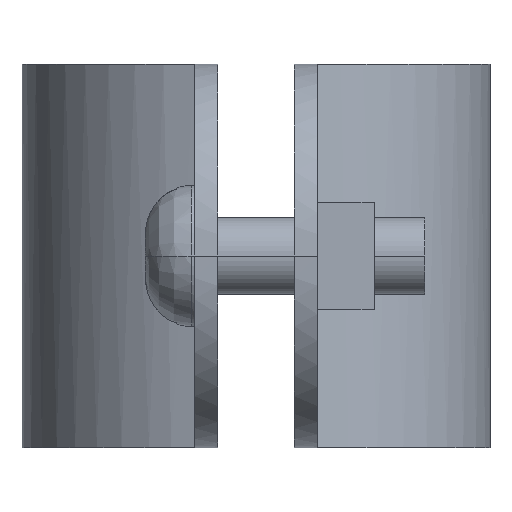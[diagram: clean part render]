
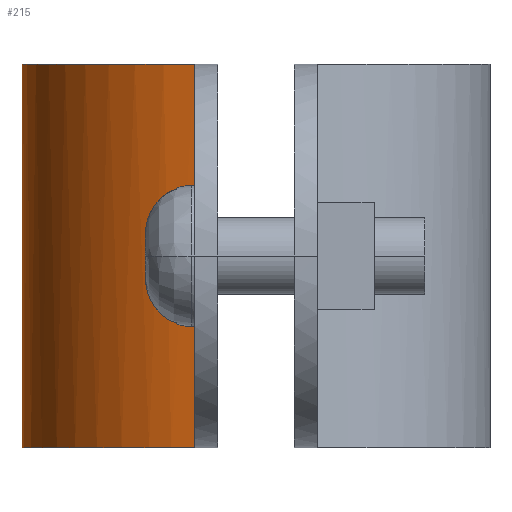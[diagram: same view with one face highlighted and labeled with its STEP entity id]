
A CAD part, left-side view. The second image highlights one B-rep face of the part: STEP entity #215.
In plain terms, the highlighted free-form (B-spline) face has degree [3, 1] with [4, 2] control points.
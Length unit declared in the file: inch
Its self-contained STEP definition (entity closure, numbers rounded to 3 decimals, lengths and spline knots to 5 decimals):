
#215=ADVANCED_FACE('',(#451),#452,.T.);
#451=FACE_OUTER_BOUND('',#805,.T.);
#452=B_SPLINE_SURFACE_WITH_KNOTS('',3,1,((#806,#807),(#808,#809),(#810,#811),(#812,#813)),.UNSPECIFIED.,.F.,.F.,.F.,(4,4),(2,2),(0.0,1.0),(0.0,1.25),.UNSPECIFIED.);
#805=EDGE_LOOP('',(#1589,#1590,#1591,#1592));
#806=CARTESIAN_POINT('',(1.26855,1.76135,0.0));
#807=CARTESIAN_POINT('',(1.26855,1.76135,1.25));
#808=CARTESIAN_POINT('',(0.92463,1.76135,0.0));
#809=CARTESIAN_POINT('',(0.92463,1.76135,1.25));
#810=CARTESIAN_POINT('',(0.62333,1.53101,0.0));
#811=CARTESIAN_POINT('',(0.62333,1.53101,1.25));
#812=CARTESIAN_POINT('',(0.53311,1.19912,0.0));
#813=CARTESIAN_POINT('',(0.53311,1.19912,1.25));
#1589=ORIENTED_EDGE('',*,*,#2122,.T.);
#1590=ORIENTED_EDGE('',*,*,#2076,.T.);
#1591=ORIENTED_EDGE('',*,*,#2123,.T.);
#1592=ORIENTED_EDGE('',*,*,#2049,.F.);
#2049=EDGE_CURVE('',#2381,#2383,#2384,.T.);
#2076=EDGE_CURVE('',#2426,#2428,#2430,.T.);
#2122=EDGE_CURVE('',#2381,#2426,#2499,.T.);
#2123=EDGE_CURVE('',#2428,#2383,#2500,.T.);
#2381=VERTEX_POINT('',#2956);
#2383=VERTEX_POINT('',#2959);
#2384=LINE('',#2960,#2961);
#2426=VERTEX_POINT('',#3031);
#2428=VERTEX_POINT('',#3034);
#2430=LINE('',#3037,#3038);
#2499=B_SPLINE_CURVE_WITH_KNOTS('',3,(#3202,#3203,#3204,#3205),.UNSPECIFIED.,.F.,.F.,(4,4),(0.0,1.0),.UNSPECIFIED.);
#2500=B_SPLINE_CURVE_WITH_KNOTS('',3,(#3206,#3207,#3208,#3209),.UNSPECIFIED.,.F.,.F.,(4,4),(-1.0,-0.0),.UNSPECIFIED.);
#2956=CARTESIAN_POINT('',(1.26855,1.76135,0.00011));
#2959=CARTESIAN_POINT('',(1.26855,1.76135,1.24989));
#2960=CARTESIAN_POINT('',(1.26855,1.76135,0.0));
#2961=VECTOR('',#3514,1.0);
#3031=CARTESIAN_POINT('',(0.53311,1.19912,0.00011));
#3034=CARTESIAN_POINT('',(0.53311,1.19912,1.24989));
#3037=CARTESIAN_POINT('',(0.53311,1.19912,0.0));
#3038=VECTOR('',#3533,1.0);
#3202=CARTESIAN_POINT('',(1.26855,1.76135,0.00011));
#3203=CARTESIAN_POINT('',(0.92463,1.76135,0.00011));
#3204=CARTESIAN_POINT('',(0.62333,1.53101,0.00011));
#3205=CARTESIAN_POINT('',(0.53311,1.19912,0.00011));
#3206=CARTESIAN_POINT('',(0.53311,1.19912,1.24989));
#3207=CARTESIAN_POINT('',(0.62333,1.53101,1.24989));
#3208=CARTESIAN_POINT('',(0.92463,1.76135,1.24989));
#3209=CARTESIAN_POINT('',(1.26855,1.76135,1.24989));
#3514=DIRECTION('',(0.0,0.0,1.0));
#3533=DIRECTION('',(0.0,0.0,1.0));
